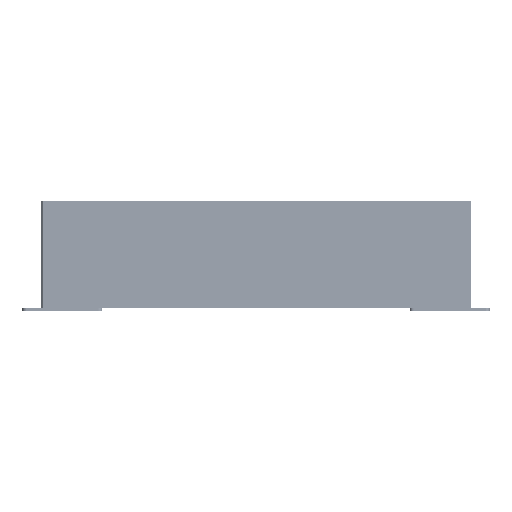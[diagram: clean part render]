
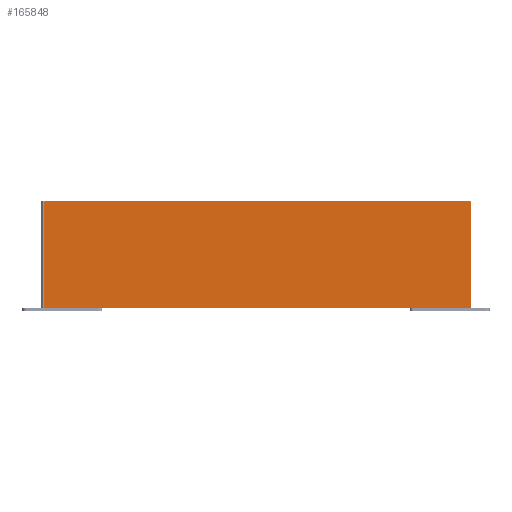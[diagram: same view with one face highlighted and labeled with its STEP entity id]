
A CAD part, front view. The second image highlights one B-rep face of the part: STEP entity #165848.
In plain terms, the highlighted planar face has unit normal (0, -1, 0) as drawn and (0, 1, 0) by its records, which use the part's own axes.
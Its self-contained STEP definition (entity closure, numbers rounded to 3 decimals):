
#162305=DIRECTION('',(-0.707,0.,-0.707));
#162306=VECTOR('',#162305,1.414);
#162307=CARTESIAN_POINT('',(361.9,66.1,-30.5));
#162308=LINE('',#162307,#162306);
#162309=DIRECTION('',(0.,0.,-1.));
#162310=VECTOR('',#162309,98.);
#162311=CARTESIAN_POINT('',(361.9,66.1,67.5));
#162312=LINE('',#162311,#162310);
#162313=DIRECTION('',(0.707,0.,-0.707));
#162314=VECTOR('',#162313,1.414);
#162315=CARTESIAN_POINT('',(360.9,66.1,68.5));
#162316=LINE('',#162315,#162314);
#162317=DIRECTION('',(1.,0.,0.));
#162318=VECTOR('',#162317,396.5);
#162319=CARTESIAN_POINT('',(-35.6,66.1,68.5));
#162320=LINE('',#162319,#162318);
#162321=DIRECTION('',(0.707,0.,0.707));
#162322=VECTOR('',#162321,1.414);
#162323=CARTESIAN_POINT('',(-36.6,66.1,67.5));
#162324=LINE('',#162323,#162322);
#162325=DIRECTION('',(0.,0.,1.));
#162326=VECTOR('',#162325,98.);
#162327=CARTESIAN_POINT('',(-36.6,66.1,-30.5));
#162328=LINE('',#162327,#162326);
#162329=DIRECTION('',(-0.707,0.,0.707));
#162330=VECTOR('',#162329,1.414);
#162331=CARTESIAN_POINT('',(-35.6,66.1,-31.5));
#162332=LINE('',#162331,#162330);
#162333=DIRECTION('',(-1.,0.,0.));
#162334=VECTOR('',#162333,396.5);
#162335=CARTESIAN_POINT('',(360.9,66.1,-31.5));
#162336=LINE('',#162335,#162334);
#162853=CARTESIAN_POINT('',(361.9,66.1,-30.5));
#162854=VERTEX_POINT('',#162853);
#162855=CARTESIAN_POINT('',(360.9,66.1,-31.5));
#162856=VERTEX_POINT('',#162855);
#162861=CARTESIAN_POINT('',(360.9,66.1,68.5));
#162862=VERTEX_POINT('',#162861);
#162863=CARTESIAN_POINT('',(361.9,66.1,67.5));
#162864=VERTEX_POINT('',#162863);
#162869=CARTESIAN_POINT('',(-35.6,66.1,-31.5));
#162870=VERTEX_POINT('',#162869);
#162871=CARTESIAN_POINT('',(-36.6,66.1,-30.5));
#162872=VERTEX_POINT('',#162871);
#162877=CARTESIAN_POINT('',(-36.6,66.1,67.5));
#162878=VERTEX_POINT('',#162877);
#162879=CARTESIAN_POINT('',(-35.6,66.1,68.5));
#162880=VERTEX_POINT('',#162879);
#165833=CARTESIAN_POINT('',(0.,66.1,0.));
#165834=DIRECTION('',(0.,1.,0.));
#165835=DIRECTION('',(1.,0.,0.));
#165836=AXIS2_PLACEMENT_3D('',#165833,#165834,#165835);
#165837=PLANE('',#165836);
#165838=ORIENTED_EDGE('',*,*,#165729,.F.);
#165839=ORIENTED_EDGE('',*,*,#165745,.F.);
#165840=ORIENTED_EDGE('',*,*,#165758,.F.);
#165841=ORIENTED_EDGE('',*,*,#165773,.F.);
#165842=ORIENTED_EDGE('',*,*,#165786,.F.);
#165843=ORIENTED_EDGE('',*,*,#165799,.F.);
#165844=ORIENTED_EDGE('',*,*,#165814,.F.);
#165845=ORIENTED_EDGE('',*,*,#165826,.F.);
#165846=EDGE_LOOP('',(#165838,#165839,#165840,#165841,#165842,#165843,#165844,
#165845));
#165847=FACE_OUTER_BOUND('',#165846,.F.);
#165729=EDGE_CURVE('',#162854,#162856,#162308,.T.);
#165745=EDGE_CURVE('',#162864,#162854,#162312,.T.);
#165758=EDGE_CURVE('',#162862,#162864,#162316,.T.);
#165773=EDGE_CURVE('',#162880,#162862,#162320,.T.);
#165786=EDGE_CURVE('',#162878,#162880,#162324,.T.);
#165799=EDGE_CURVE('',#162872,#162878,#162328,.T.);
#165814=EDGE_CURVE('',#162870,#162872,#162332,.T.);
#165826=EDGE_CURVE('',#162856,#162870,#162336,.T.);
#165848=ADVANCED_FACE('',(#165847),#165837,.T.);
